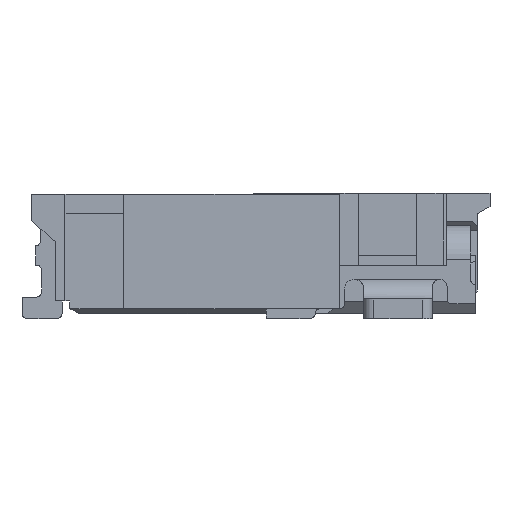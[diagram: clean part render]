
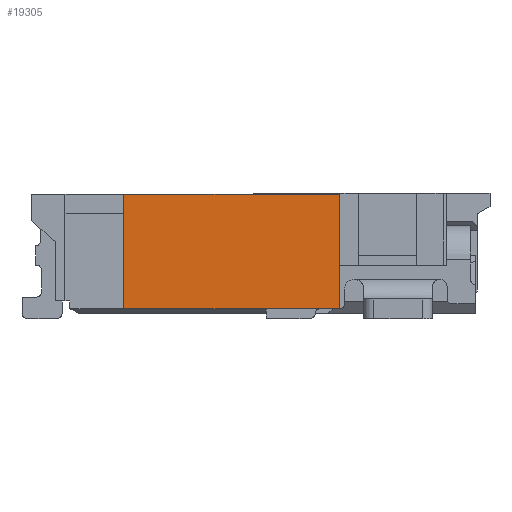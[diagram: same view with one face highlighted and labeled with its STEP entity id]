
A CAD part, front view. The second image highlights one B-rep face of the part: STEP entity #19305.
In plain terms, the highlighted planar face has unit normal (0, -1, 0).
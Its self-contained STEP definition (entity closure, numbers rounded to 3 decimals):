
#238 = EDGE_CURVE ( 'NONE', #12834, #11555, #8380, .T. ) ;
#1287 = DIRECTION ( 'NONE',  ( 0., 0., 1. ) ) ;
#1357 = EDGE_CURVE ( 'NONE', #9315, #15266, #12259, .T. ) ;
#1404 = EDGE_CURVE ( 'NONE', #12834, #15266, #13438, .T. ) ;
#1617 = CARTESIAN_POINT ( 'NONE',  ( 1.55, -2.9, 1.27 ) ) ;
#2221 = PLANE ( 'NONE',  #12801 ) ;
#2915 = ORIENTED_EDGE ( 'NONE', *, *, #1357, .F. ) ;
#3515 = CARTESIAN_POINT ( 'NONE',  ( -0.66, -2.9, 0.685 ) ) ;
#4653 = VECTOR ( 'NONE', #12319, 1000. ) ;
#7778 = DIRECTION ( 'NONE',  ( 1., 0., 0. ) ) ;
#8380 = LINE ( 'NONE', #14550, #4653 ) ;
#8964 = DIRECTION ( 'NONE',  ( 0., 0., 1. ) ) ;
#9315 = VERTEX_POINT ( 'NONE', #14457 ) ;
#9433 = CARTESIAN_POINT ( 'NONE',  ( -0.66, -2.9, 0.1 ) ) ;
#9979 = FACE_OUTER_BOUND ( 'NONE', #21231, .T. ) ;
#10018 = CARTESIAN_POINT ( 'NONE',  ( -0.025, -2.9, 1.27 ) ) ;
#10220 = ORIENTED_EDGE ( 'NONE', *, *, #20051, .F. ) ;
#11195 = CARTESIAN_POINT ( 'NONE',  ( 1.55, -2.9, 0.685 ) ) ;
#11555 = VERTEX_POINT ( 'NONE', #9433 ) ;
#12259 = LINE ( 'NONE', #10018, #13695 ) ;
#12319 = DIRECTION ( 'NONE',  ( -1., 0., 0. ) ) ;
#12801 = AXIS2_PLACEMENT_3D ( 'NONE', #19543, #17306, #15069 ) ;
#12834 = VERTEX_POINT ( 'NONE', #17390 ) ;
#13438 = LINE ( 'NONE', #11195, #18766 ) ;
#13695 = VECTOR ( 'NONE', #7778, 1000. ) ;
#14444 = ORIENTED_EDGE ( 'NONE', *, *, #1404, .T. ) ;
#14457 = CARTESIAN_POINT ( 'NONE',  ( -0.66, -2.9, 1.27 ) ) ;
#14550 = CARTESIAN_POINT ( 'NONE',  ( 0.445, -2.9, 0.1 ) ) ;
#14673 = LINE ( 'NONE', #3515, #21263 ) ;
#15069 = DIRECTION ( 'NONE',  ( 0., 0., 1. ) ) ;
#15266 = VERTEX_POINT ( 'NONE', #1617 ) ;
#17306 = DIRECTION ( 'NONE',  ( 0., 1., 0. ) ) ;
#17390 = CARTESIAN_POINT ( 'NONE',  ( 1.55, -2.9, 0.1 ) ) ;
#17570 = ORIENTED_EDGE ( 'NONE', *, *, #238, .F. ) ;
#18766 = VECTOR ( 'NONE', #8964, 1000. ) ;
#19305 = ADVANCED_FACE ( 'NONE', ( #9979 ), #2221, .F. ) ;
#19543 = CARTESIAN_POINT ( 'NONE',  ( -0.66, -2.9, 0.1 ) ) ;
#20051 = EDGE_CURVE ( 'NONE', #11555, #9315, #14673, .T. ) ;
#21231 = EDGE_LOOP ( 'NONE', ( #17570, #14444, #2915, #10220 ) ) ;
#21263 = VECTOR ( 'NONE', #1287, 1000. ) ;
